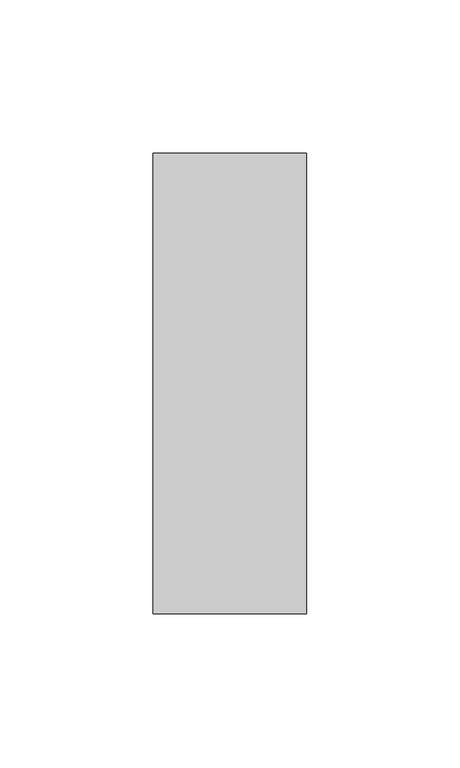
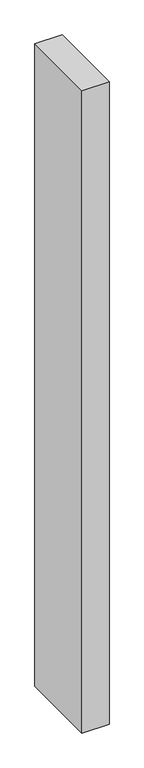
"""IFC4 building model written with IfcOpenShell, lengths in millimetres: member geometry, Прямоугольный импост : 50 x 150 мм."""

from ifc_helpers import new_model, si_unit, frame, origin, place, context, project, spatial, polyline, outline, extrude, source, transform, mapped, element, save


def member_f8d76cc7(model_context):
    return source(origin(), model_context, "Body", "SweptSolid", [
        extrude(outline(polyline([(25.0, 75.0), (25.0, -75.0), (-25.0, -75.0), (-25.0, 75.0), (25.0, 75.0)])), frame((0.0, 0.0, -1252.0683527), z_axis=(0.0, 0.0, 1.0), x_axis=(1.0, 0.0, 0.0)), (0.0, 0.0, 1.0), 1252.0683527),
    ])


if __name__ == "__main__":
    model = new_model("IFC4")
    model_context = context("Model", 3, world=origin())
    ifc_project = project(units=[si_unit("LENGTHUNIT", "METRE", prefix="MILLI")], contexts=[model_context])
    site = spatial("IfcSite", under=ifc_project)
    building = spatial("IfcBuilding", under=site)
    placement = place(None, origin())
    member_shape = member_f8d76cc7(model_context)
    element("IfcMember", 1, ObjectType="Прямоугольный импост : 50 x 150 мм", at=placement, inside=building, context=model_context, shape_type="MappedRepresentation", body=[
        mapped(member_shape, transform((0.0, 0.0, 0.0), x_axis=(1.0, 0.0, 0.0), y_axis=(0.0, 1.0, 0.0), z_axis=(0.0, 0.0, 1.0))),
    ])
    save(model, "model.ifc")
